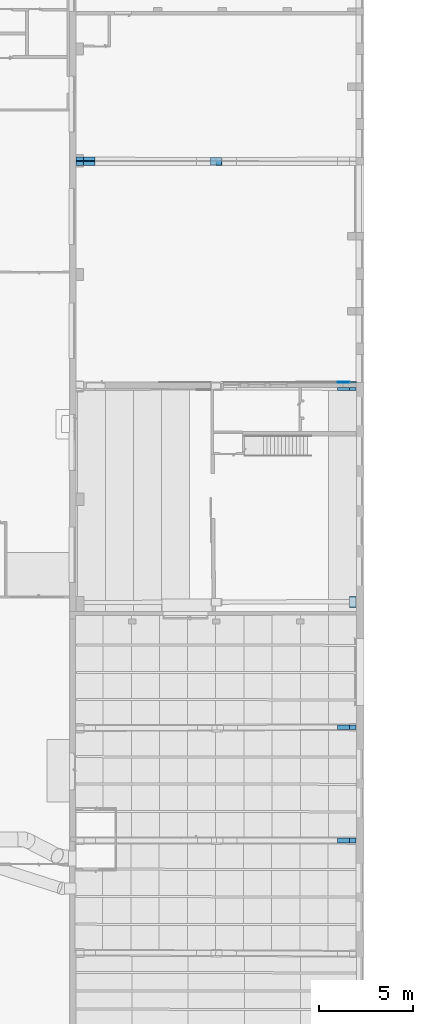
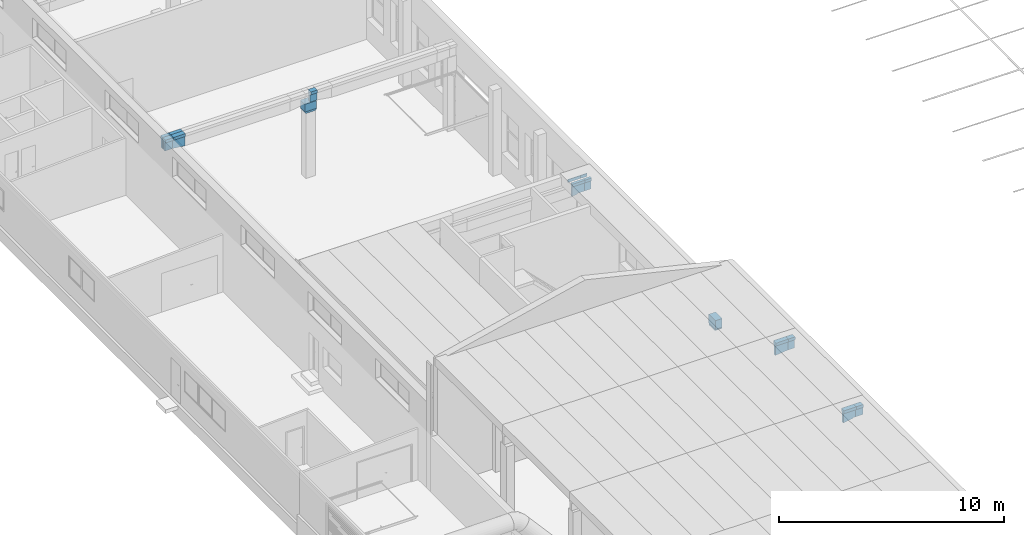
# One storey, part 223 of 301: 17 building element parts, 9 elements without a shape of their own.
"""IFC2X3 building model written with IfcOpenShell, lengths in millimetres."""

import ifcopenshell
import ifcopenshell.guid

model = None  # the IFC model being written
_history = None  # IfcOwnerHistory: only IFC2X3 demands one
_inside = {}  # id of a spatial element -> (the spatial element, [elements in it])
_under = {}  # id of a project, library or spatial element -> (it, [spatial elements below it])
_declared = {}  # id of a project -> (the project, [libraries it declares])
_typed = {}  # id of a type object -> (the type object, [elements of that type])
_made_of = {}  # id of a material, layer set ... -> (it, [elements and type objects made of it])


def new_model(schema):
    """Start an empty IFC model of exactly this schema.

    Asked for "IFC4X3", IfcOpenShell would pick the latest addendum, in which some entities
    have other attributes; the version numbers below select the first issue.
    IFC2X3 requires an IfcOwnerHistory on every rooted entity: one is made here for all.
    """
    global model, _history
    if schema == "IFC4X3":
        model = ifcopenshell.file(schema_version=(4, 3, 0, 0))
    else:
        model = ifcopenshell.file(schema=schema)
    _inside.clear()
    _under.clear()
    _declared.clear()
    _typed.clear()
    _made_of.clear()
    _history = None
    if model.schema == "IFC2X3":
        org = make("IfcOrganization", Name="unknown")
        user = make(
            "IfcPersonAndOrganization",
            ThePerson=make("IfcPerson", FamilyName="unknown"),
            TheOrganization=org,
        )
        app = make(
            "IfcApplication",
            ApplicationDeveloper=org,
            Version="unknown",
            ApplicationFullName="unknown",
            ApplicationIdentifier="unknown",
        )
        _history = make(
            "IfcOwnerHistory",
            OwningUser=user,
            OwningApplication=app,
            ChangeAction="ADDED",
            CreationDate=0,
        )
    return model


def make(cls, **values):
    """One entity of the class cls with the attributes given. An attribute that is None is left unset."""
    return model.create_entity(
        cls, **{name: value for name, value in values.items() if value is not None}
    )


def entity(cls, *values):
    """Any entity or typed value of the class cls, its attributes in the order of the schema. None: left unset."""
    e = model.create_entity(cls)
    for i, value in enumerate(values):
        if value is not None:
            e[i] = value
    return e


def rooted(cls, **values):
    """An entity with a GlobalId (a new one), such as an element, a storey or a relation."""
    return make(cls, GlobalId=ifcopenshell.guid.new(), OwnerHistory=_history, **values)


def si_unit(unit_type, name, prefix=None):
    """IfcSIUnit, for example si_unit("LENGTHUNIT", "METRE", prefix="MILLI")."""
    return make("IfcSIUnit", UnitType=unit_type, Prefix=prefix, Name=name)


def converted_unit(unit_type, name, factor, base, dimensions=None, offset=None):
    """IfcConversionBasedUnit, such as the inch: factor (a typed value) times the base unit."""
    return make(
        "IfcConversionBasedUnit"
        if offset is None
        else "IfcConversionBasedUnitWithOffset",
        ConversionOffset=offset,
        Dimensions=None
        if dimensions is None
        else entity("IfcDimensionalExponents", *dimensions),
        UnitType=unit_type,
        Name=name,
        ConversionFactor=make(
            "IfcMeasureWithUnit", ValueComponent=factor, UnitComponent=base
        ),
    )


def derived_unit(unit_type, elements):
    """IfcDerivedUnit: a product of units, each with its exponent."""
    return make(
        "IfcDerivedUnit",
        Elements=[
            make("IfcDerivedUnitElement", Unit=unit, Exponent=power)
            for unit, power in elements
        ],
        UnitType=unit_type,
    )


def money_unit(currency):
    """IfcMonetaryUnit."""
    return make("IfcMonetaryUnit", Currency=currency)


def assignment(units):
    """IfcUnitAssignment: the units of a project."""
    return None if units is None else make("IfcUnitAssignment", Units=units)


def point(xyz):
    """IfcCartesianPoint."""
    return None if xyz is None else make("IfcCartesianPoint", Coordinates=xyz)


def direction(xyz):
    """IfcDirection."""
    return None if xyz is None else make("IfcDirection", DirectionRatios=xyz)


def frame(location, z_axis=None, x_axis=None):
    """IfcAxis2Placement3D, a coordinate frame: its origin and axes. An axis left out is left unset."""
    return make(
        "IfcAxis2Placement3D",
        Location=point(location),
        Axis=direction(z_axis),
        RefDirection=direction(x_axis),
    )


def origin_with_axes():
    """The frame at (0, 0, 0) with the z axis (0, 0, 1) and the x axis (1, 0, 0) written out."""
    return frame((0.0, 0.0, 0.0), z_axis=(0.0, 0.0, 1.0), x_axis=(1.0, 0.0, 0.0))


def place(relative_to, where):
    """IfcLocalPlacement: puts the frame where relative to a parent placement (None: the world)."""
    return make(
        "IfcLocalPlacement", PlacementRelTo=relative_to, RelativePlacement=where
    )


def context(
    kind, dimensions, precision=None, world=None, true_north=None, identifier=None
):
    """IfcGeometricRepresentationContext, for example the 3D "Model" context."""
    return make(
        "IfcGeometricRepresentationContext",
        ContextIdentifier=identifier,
        ContextType=kind,
        CoordinateSpaceDimension=dimensions,
        Precision=precision,
        WorldCoordinateSystem=world,
        TrueNorth=true_north,
    )


def subcontext(parent, identifier, kind, view, scale=None):
    """IfcGeometricRepresentationSubContext, for example "Body" below "Model"."""
    return make(
        "IfcGeometricRepresentationSubContext",
        ContextIdentifier=identifier,
        ContextType=kind,
        ParentContext=parent,
        TargetScale=scale,
        TargetView=view,
    )


def project(units=None, contexts=None):
    """IfcProject with its units and contexts."""
    return rooted(
        "IfcProject",
        Name="project",
        RepresentationContexts=contexts,
        UnitsInContext=assignment(units),
    )


def spatial(cls, under=None, at=None, **own):
    """A site, building, storey or space (cls), placed at a placement, below another one or the project."""
    s = rooted(cls, ObjectPlacement=at, **own)
    if under is not None:
        _under.setdefault(under.id(), (under, []))[1].append(s)
    return s


def faces_of(points, faces, orient=None, outer=None):
    """IfcFace entities. A face is a list of loops; a loop is a list of indices into points, from 0.

    orient and outer hold one flag for each loop. By default every Orientation is true, the
    first loop of a face is its IfcFaceOuterBound and the others are IfcFaceBound.
    """
    made = []
    for i, loops in enumerate(faces):
        bounds = []
        for j, loop in enumerate(loops):
            is_outer = j == 0 if outer is None else outer[i][j]
            bounds.append(
                make(
                    "IfcFaceOuterBound" if is_outer else "IfcFaceBound",
                    Bound=make("IfcPolyLoop", Polygon=[points[k] for k in loop]),
                    Orientation=True if orient is None else orient[i][j],
                )
            )
        made.append(make("IfcFace", Bounds=bounds))
    return made


def faceted_brep(points, faces, orient=None, outer=None, voids=None):
    """IfcFacetedBrep: a solid bounded by flat faces; with voids (closed shells), ...WithVoids."""
    shared = [point(p) for p in points]
    hull = make("IfcClosedShell", CfsFaces=faces_of(shared, faces, orient, outer))
    if voids is None:
        return make("IfcFacetedBrep", Outer=hull)
    return make(
        "IfcFacetedBrepWithVoids",
        Outer=hull,
        Voids=[
            make(cls, CfsFaces=faces_of(shared, fs, o, b)) for cls, fs, o, b in voids
        ],
    )


def shape(context_of_items, identifier, shape_type, items):
    """IfcShapeRepresentation: the items that make up one representation, for example the "Body"."""
    return make(
        "IfcShapeRepresentation",
        ContextOfItems=context_of_items,
        RepresentationIdentifier=identifier,
        RepresentationType=shape_type,
        Items=items,
    )


def material(Name=None, Category=None):
    """IfcMaterial."""
    return make("IfcMaterial", Name=Name, Category=Category)


def made_of(thing, what):
    """Note that an element or type object is made of a material, layer set ...; save() writes the relation."""
    if what is not None:
        _made_of.setdefault(what.id(), (what, []))[1].append(thing)
    return thing


def type_object(cls, material=None, **own):
    """A type object (cls), such as IfcWallType, which elements share."""
    return made_of(rooted(cls, **own), material)


def element(
    cls,
    number,
    at=None,
    inside=None,
    cuts=None,
    type_object=None,
    material=None,
    context=None,
    identifier="Body",
    shape_type=None,
    held_by="IfcProductDefinitionShape",
    body=None,
    shapes=None,
    **own,
):
    """One element of the class cls, such as IfcWall. Its Tag is "e" and its number.

    at: its placement. inside: the storey or other place that contains it. cuts: it is an
    opening in that element (IfcRelVoidsElement). A single representation is given by context,
    identifier, shape_type and body (its items); several are given by shapes. held_by: the class
    of the entity that holds the representations. save() writes the other relations.
    """
    e = rooted(cls, Tag="e%d" % number, ObjectPlacement=at, **own)
    if body is not None:
        shapes = [shape(context, identifier, shape_type, body)]
    if shapes is not None:
        e.Representation = make(held_by, Representations=shapes)
    if inside is not None:
        _inside.setdefault(inside.id(), (inside, []))[1].append(e)
    if cuts is not None:
        rooted(
            "IfcRelVoidsElement", RelatingBuildingElement=cuts, RelatedOpeningElement=e
        )
    if type_object is not None:
        _typed.setdefault(type_object.id(), (type_object, []))[1].append(e)
    return made_of(e, material)


def aggregate(whole, parts):
    """IfcRelAggregates: a whole, such as a stair, and the parts it consists of."""
    return rooted("IfcRelAggregates", RelatingObject=whole, RelatedObjects=parts)


def save(model, path):
    """Write the relations noted so far, then the file.

    IfcRelAggregates (storeys below a building ...), IfcRelContainedInSpatialStructure (elements
    in a storey), IfcRelDefinesByType, IfcRelAssociatesMaterial and IfcRelDeclares: one each for
    every whole, place, type object, material and project.
    """
    for whole, parts in _under.values():
        aggregate(whole, parts)
    for where, things in _inside.values():
        rooted(
            "IfcRelContainedInSpatialStructure",
            RelatedElements=things,
            RelatingStructure=where,
        )
    for kind, things in _typed.values():
        rooted("IfcRelDefinesByType", RelatedObjects=things, RelatingType=kind)
    for what, things in _made_of.values():
        rooted("IfcRelAssociatesMaterial", RelatedObjects=things, RelatingMaterial=what)
    for by, libraries in _declared.values():
        rooted("IfcRelDeclares", RelatingContext=by, RelatedDefinitions=libraries)
    model.write(path)


model = new_model("IFC2X3")

# Units and contexts
model_context = context("Model", 3, precision=0.01, world=origin_with_axes(), true_north=direction((0.0, 1.0)))
body_context = subcontext(model_context, "Body", "Model", "MODEL_VIEW")
ifc_project = project(units=[si_unit("LENGTHUNIT", "METRE", prefix="MILLI"), si_unit("AREAUNIT", "SQUARE_METRE"), si_unit("VOLUMEUNIT", "CUBIC_METRE"), converted_unit("PLANEANGLEUNIT", "DEGREE", entity("IfcPlaneAngleMeasure", 0.0174532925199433), si_unit("PLANEANGLEUNIT", "RADIAN"), dimensions=[0, 0, 0, 0, 0, 0, 0]), money_unit("EUR"), converted_unit("TIMEUNIT", "Year", entity("IfcTimeMeasure", 31557600.0), si_unit("TIMEUNIT", "SECOND"), dimensions=[0, 0, 1, 0, 0, 0, 0]), si_unit("MASSUNIT", "GRAM", prefix="KILO"), si_unit("THERMODYNAMICTEMPERATUREUNIT", "DEGREE_CELSIUS"), si_unit("LUMINOUSINTENSITYUNIT", "LUMEN"), si_unit("ENERGYUNIT", "JOULE", prefix="MEGA"), derived_unit("THERMALCONDUCTANCEUNIT", [(si_unit("POWERUNIT", "WATT"), 1), (si_unit("LENGTHUNIT", "METRE"), -1), (si_unit("THERMODYNAMICTEMPERATUREUNIT", "KELVIN"), -1)]), derived_unit("SPECIFICHEATCAPACITYUNIT", [(si_unit("ENERGYUNIT", "JOULE"), 1), (si_unit("MASSUNIT", "GRAM", prefix="KILO"), -1), (si_unit("THERMODYNAMICTEMPERATUREUNIT", "KELVIN"), -1)]), derived_unit("MASSDENSITYUNIT", [(si_unit("MASSUNIT", "GRAM", prefix="KILO"), 1), (si_unit("VOLUMEUNIT", "CUBIC_METRE"), -1)])], contexts=[model_context])

# Site, building, storey
site_placement = place(None, frame((0.0, 0.0, 8650.0), z_axis=(0.0, 0.0, 1.0), x_axis=(1.0, 0.0, 0.0)))
site = spatial("IfcSite", under=ifc_project, at=site_placement, Name="43301:001:0844", CompositionType="ELEMENT")
building_placement = place(site_placement, origin_with_axes())
building = spatial("IfcBuilding", under=site, at=building_placement, Name="Kuressaare Ametikooli tuulikute mehaanikute õppekorpus", CompositionType="ELEMENT")
storey_placement = place(building_placement, origin_with_axes())
storey = spatial("IfcBuildingStorey", under=building, at=storey_placement, Name="1.korrus", CompositionType="ELEMENT", Elevation=0.0)

# Beam, building element parts
beam_type_1 = type_object("IfcBeamType", Name="Various Structures - 5 Segments - 250 x 700 x 7456 (338+766+5361+631+361)", PredefinedType="NOTDEFINED")
beam_1_placement = place(storey_placement, frame((95771.85418875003, 50085.18157357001, 6660.0), z_axis=(0.0, 0.0, 1.0), x_axis=(2.364312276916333e-05, -0.9999999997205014, 0.0)))
beam_1 = element("IfcBeam", 1, at=beam_1_placement, inside=storey, type_object=beam_type_1)
ifc_material_1 = material(Name="Raudbetoon")
building_element_part_1_placement = place(beam_1_placement, origin_with_axes())
building_element_part_1 = element("IfcBuildingElementPart", 2, at=building_element_part_1_placement, material=ifc_material_1, Name="Raudbetoon", context=body_context, shape_type="Brep", body=[
    faceted_brep([(64.99999999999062, 7095.02210640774, -164.4012678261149), (64.99999999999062, 7095.02210640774, -580.0000000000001), (-65.00000000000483, 7095.022106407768, -580.0000000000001), (-65.00000000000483, 7095.022106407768, -164.4012678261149), (-125.0052826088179, 7095.022106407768, -150.0000000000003), (-125.0054185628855, 7095.022106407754, -75.00000000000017), (-125.0055545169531, 7095.022106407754, 0.0), (-109.6732934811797, 7095.022106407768, 0.0), (-109.6732783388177, 7095.022106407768, -5.000209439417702), (109.4852506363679, 7095.02210640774, -5.000209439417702), (109.4852657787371, 7095.022106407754, 0.0), (125.0055545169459, 7095.022106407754, 0.0), (125.0054185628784, 7095.022106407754, -75.00000000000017), (125.0052826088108, 7095.022106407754, -150.0000000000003), (64.99999999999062, 6955.656475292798, -606.5169512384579), (64.99999999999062, 6955.656475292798, -580.0000000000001), (64.99999999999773, 6464.335883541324, -164.4011476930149), (64.99999999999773, 6464.335883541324, -700.0000000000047), (50.16445346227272, 6955.656826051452, -580.0000000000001), (-64.99999999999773, 6955.659611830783, -580.0000000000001), (-64.99999999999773, 6955.659611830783, -606.5163034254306), (-65.00000000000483, 6464.335883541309, -700.0000000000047), (-65.00000000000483, 6464.335883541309, -164.4011476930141), (-125.0047820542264, 6464.335883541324, -150.0000000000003), (-125.0049071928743, 6622.007439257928, -150.0000000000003), (-125.00515747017, 6937.35055069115, -150.0000000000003), (-125.0054379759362, 6937.35055069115, 0.0), (-125.0052048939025, 6622.007439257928, 0.0), (-125.0050883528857, 6464.335883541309, 0.0), (-109.8642867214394, 6464.335883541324, 0.0), (-109.8642715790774, 6464.335883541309, -5.000209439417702), (109.2942573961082, 6464.335883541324, -5.000209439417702), (109.2942725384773, 6464.335883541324, 0.0), (125.0050883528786, 6464.335883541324, 0.0), (125.0052048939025, 6622.007439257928, 0.0), (125.0054379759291, 6937.35055069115, 0.0), (125.0051574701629, 6937.35055069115, -150.0000000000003), (125.0049071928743, 6622.007439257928, -150.0000000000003), (125.0047820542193, 6464.335883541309, -150.0000000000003), (50.16445346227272, 6955.656826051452, -606.5163034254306), (125.0049352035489, 6464.335883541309, -75.00000000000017), (-125.004935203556, 6464.335883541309, -75.00000000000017), (-125.0051768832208, 6779.678994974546, -75.00000000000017), (125.0051768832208, 6779.678994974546, -75.00000000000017)], [[[0, 1, 2, 3, 4, 5, 6, 7, 8, 9, 10, 11, 12, 13]], [[14, 15, 1, 0, 16, 17]], [[2, 1, 15, 18, 19]], [[3, 2, 19, 20, 21, 22]], [[22, 23, 24, 25, 4, 3]], [[25, 5, 4]], [[26, 6, 5]], [[7, 6, 26, 27, 28, 29]], [[30, 8, 7, 29]], [[31, 9, 8, 30]], [[31, 32, 10, 9]], [[32, 33, 34, 35, 11, 10]], [[35, 12, 11]], [[36, 13, 12]], [[36, 37, 38, 16, 0, 13]], [[19, 18, 15, 14, 39, 20]], [[38, 40, 33, 32, 31, 30, 29, 28, 41, 23, 22, 21, 17, 16]], [[20, 39, 14, 17, 21]], [[23, 41, 24]], [[24, 42, 25]], [[5, 25, 42, 26]], [[27, 26, 42]], [[28, 27, 41]], [[33, 40, 34]], [[34, 43, 35]], [[12, 35, 43, 36]], [[37, 36, 43]], [[38, 37, 40]], [[42, 24, 41, 27]], [[43, 34, 40, 37]]]),
])
building_element_part_2_placement = place(beam_1_placement, origin_with_axes())
building_element_part_2 = element("IfcBuildingElementPart", 3, at=building_element_part_2_placement, material=ifc_material_1, Name="Raudbetoon", context=body_context, shape_type="Brep", body=[
    faceted_brep([(-109.6732934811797, 7095.022106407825, 0.0), (-109.5640798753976, 7455.660610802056, 0.0), (-125.0055545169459, 7455.660975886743, 0.0), (-125.0055545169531, 7095.02210640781, 0.0), (-109.6732783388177, 7095.022106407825, -5.000209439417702), (-109.5640647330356, 7455.6606108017, -5.000209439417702), (-65.00000000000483, 7455.659557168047, -164.4012678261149), (-125.0052826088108, 7455.660975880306, -150.0000000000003), (109.5944626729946, 7455.655429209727, -5.000209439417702), (109.5944778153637, 7455.655429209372, 0.0), (125.0055545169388, 7455.655064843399, 0.0), (125.0052826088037, 7455.655064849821, -150.0000000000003), (65.00000000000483, 7455.65648356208, -164.4012678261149), (65.00000000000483, 7455.65648356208, -580.0000000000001), (-65.00000000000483, 7455.659557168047, -580.0000000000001), (-125.0052826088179, 7095.02210640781, -150.0000000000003), (109.4852657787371, 7095.022106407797, 0.0), (109.4852506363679, 7095.022106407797, -5.000209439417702), (-64.99999999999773, 7095.02210640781, -164.4012678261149), (-64.99999999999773, 7095.02210640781, -580.0000000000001), (64.99999999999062, 7095.022106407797, -580.0000000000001), (64.99999999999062, 7095.022106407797, -164.4012678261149), (125.0052826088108, 7095.022106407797, -150.0000000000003), (125.0055545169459, 7095.022106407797, 0.0)], [[[0, 1, 2, 3]], [[4, 5, 1, 0]], [[6, 7, 2, 1, 5, 8, 9, 10, 11, 12, 13, 14]], [[3, 2, 7, 15]], [[16, 17, 4, 0, 3, 15, 18, 19, 20, 21, 22, 23]], [[17, 8, 5, 4]], [[15, 7, 6, 18]], [[16, 9, 8, 17]], [[23, 10, 9, 16]], [[22, 11, 10, 23]], [[21, 12, 11, 22]], [[20, 13, 12, 21]], [[19, 14, 13, 20]], [[18, 6, 14, 19]]]),
])
aggregate(beam_1, [building_element_part_1, building_element_part_2])

beam_type_2 = type_object("IfcBeamType", Name="Various Structures - 5 Segments - 250 x 700 x 7435 (338+766+5341+640+350)", PredefinedType="NOTDEFINED")
beam_2_placement = place(storey_placement, frame((95793.5361313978, 56107.49431488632, 6659.999999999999), z_axis=(0.0, 0.0, 1.0), x_axis=(0.005495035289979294, -0.9999849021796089, 0.0)))
beam_2 = element("IfcBeam", 4, at=beam_2_placement, inside=storey, type_object=beam_type_2)
building_element_part_3_placement = place(beam_2_placement, origin_with_axes())
building_element_part_3 = element("IfcBuildingElementPart", 5, at=building_element_part_3_placement, material=ifc_material_1, Name="Raudbetoon", context=body_context, shape_type="Brep", body=[
    faceted_brep([(64.99999999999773, 6445.149922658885, -700.0000000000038), (64.99999999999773, 7083.725847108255, -630.1142666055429), (64.99999999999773, 7083.725847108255, -629.999999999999), (64.99999999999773, 7084.769950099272, -629.999999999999), (64.99999999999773, 7084.769950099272, -164.4012678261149), (64.99999999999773, 6445.149922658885, -164.4011476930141), (-64.99999999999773, 6445.149922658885, -700.0000000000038), (-65.00000000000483, 7084.440212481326, -630.0360864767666), (-65.00000000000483, 7084.440212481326, -629.999999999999), (-65.00000000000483, 7084.769950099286, -629.999999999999), (-65.00000000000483, 7084.769950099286, -164.4012678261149), (-125.0052826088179, 7084.769950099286, -150.0000000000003), (-125.0054185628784, 7084.7699500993, -75.00000000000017), (-125.0055545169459, 7084.769950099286, 0.0), (-110.2420167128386, 7084.769950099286, 0.0), (-110.2420015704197, 7084.769950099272, -5.000214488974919), (108.9169106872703, 7084.769950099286, -5.000214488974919), (108.916925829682, 7084.769950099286, 0.0), (125.0055545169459, 7084.7699500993, 0.0), (125.0054185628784, 7084.769950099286, -75.00000000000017), (125.0052826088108, 7084.769950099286, -150.0000000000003), (125.00515747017, 6924.864943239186, -150.0000000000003), (125.0049071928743, 6605.054929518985, -150.0000000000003), (125.0047820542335, 6445.149922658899, -150.0000000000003), (107.7051071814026, 6445.149922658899, 0.0), (107.7050920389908, 6445.149922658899, -5.000214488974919), (-111.4538202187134, 6445.149922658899, -5.000214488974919), (-111.4538353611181, 6445.149922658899, 0.0), (-125.0050883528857, 6445.149922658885, 0.0), (-125.0049352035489, 6445.149922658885, -75.00000000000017), (-125.0047820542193, 6445.149922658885, -150.0000000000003), (-64.99999999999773, 6445.149922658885, -164.4011476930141), (125.004935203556, 6445.149922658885, -75.00000000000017), (125.0050883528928, 6445.149922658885, 0.0), (-125.0051574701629, 6924.864943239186, -150.0000000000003), (-125.0049071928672, 6605.054929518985, -150.0000000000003), (-125.0054379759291, 6924.8649432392, 0.0), (-125.0052048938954, 6605.054929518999, 0.0), (125.0054379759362, 6924.864943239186, 0.0), (125.0052048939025, 6605.054929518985, 0.0), (125.0051768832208, 6764.959936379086, -75.00000000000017), (-125.0051768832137, 6764.959936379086, -75.00000000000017)], [[[0, 1, 2, 3, 4, 5]], [[6, 7, 1, 0]], [[1, 7, 8, 2]], [[8, 9, 3, 2]], [[4, 3, 9, 10, 11, 12, 13, 14, 15, 16, 17, 18, 19, 20]], [[5, 4, 20, 21, 22, 23]], [[24, 25, 26, 27, 28, 29, 30, 31, 6, 0, 5, 23, 32, 33]], [[9, 8, 7, 6, 31, 10]], [[34, 11, 10, 31, 30, 35]], [[34, 12, 11]], [[36, 13, 12]], [[37, 28, 27, 14, 13, 36]], [[27, 26, 15, 14]], [[26, 25, 16, 15]], [[16, 25, 24, 17]], [[38, 18, 17, 24, 33, 39]], [[38, 19, 18]], [[21, 20, 19]], [[22, 21, 40]], [[23, 22, 32]], [[28, 37, 29]], [[30, 29, 35]], [[33, 32, 39]], [[35, 41, 34]], [[36, 12, 34, 41]], [[37, 36, 41]], [[39, 40, 38]], [[21, 19, 38, 40]], [[22, 40, 39, 32]], [[37, 41, 35, 29]]]),
])
building_element_part_4_placement = place(beam_2_placement, origin_with_axes())
building_element_part_4 = element("IfcBuildingElementPart", 6, at=building_element_part_4_placement, material=ifc_material_1, Name="Raudbetoon", context=body_context, shape_type="Brep", body=[
    faceted_brep([(-110.2420167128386, 7084.7699500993, 0.0), (-109.5790267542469, 7434.690463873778, 0.0), (-125.0055545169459, 7434.775234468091, 0.0), (-125.0055545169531, 7084.7699500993, 0.0), (-110.2420015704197, 7084.7699500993, -5.000214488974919), (-109.5790116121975, 7434.690463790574, -5.000214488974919), (-65.00000000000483, 7434.445496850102, -164.4012678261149), (-125.0052826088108, 7434.77523297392, -150.0000000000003), (109.5775854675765, 7433.486172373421, -5.000214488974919), (109.5776006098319, 7433.486172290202, 0.0), (125.0055545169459, 7433.401393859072, 0.0), (125.0052826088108, 7433.401395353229, -150.0000000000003), (65.00000000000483, 7433.731131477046, -164.4012678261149), (65.00000000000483, 7433.731131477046, -629.999999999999), (-65.00000000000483, 7434.445496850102, -629.999999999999), (-125.0052826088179, 7084.769950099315, -150.0000000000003), (108.916925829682, 7084.769950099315, 0.0), (108.9169106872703, 7084.769950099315, -5.000214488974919), (-65.00000000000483, 7084.7699500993, -164.4012678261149), (-65.00000000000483, 7084.7699500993, -629.999999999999), (64.99999999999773, 7084.7699500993, -629.999999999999), (64.99999999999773, 7084.7699500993, -164.4012678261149), (125.0052826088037, 7084.7699500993, -150.0000000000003), (125.0055545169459, 7084.769950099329, 0.0)], [[[0, 1, 2, 3]], [[4, 5, 1, 0]], [[6, 7, 2, 1, 5, 8, 9, 10, 11, 12, 13, 14]], [[3, 2, 7, 15]], [[16, 17, 4, 0, 3, 15, 18, 19, 20, 21, 22, 23]], [[17, 8, 5, 4]], [[15, 7, 6, 18]], [[16, 9, 8, 17]], [[23, 10, 9, 16]], [[22, 11, 10, 23]], [[21, 12, 11, 22]], [[20, 13, 12, 21]], [[19, 14, 13, 20]], [[18, 6, 14, 19]]]),
])
aggregate(beam_2, [building_element_part_3, building_element_part_4])

# Column, building element parts
column_type_1 = type_object("IfcColumnType", Name="Various Structures - 3 Segments - 600 x 400 x 4050 (3533+102+415)", PredefinedType="NOTDEFINED")
column_1_placement = place(storey_placement, frame((95731.50422307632, 86396.78349422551, -330.0), z_axis=(0.0, 0.0, 1.0), x_axis=(1.0, 0.0, 0.0)))
column_1 = element("IfcColumn", 7, at=column_1_placement, inside=storey, type_object=column_type_1)
ifc_material_2 = material(Name="GENEERILINE - KONSTRUKTRIOON")
building_element_part_5_placement = place(column_1_placement, origin_with_axes())
building_element_part_5 = element("IfcBuildingElementPart", 8, at=building_element_part_5_placement, material=ifc_material_2, Name="GENEERILINE - KONSTRUKTRIOON", context=body_context, shape_type="Brep", body=[
    faceted_brep([(299.9999999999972, -200.0000000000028, 3635.0), (-299.9999999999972, -200.0000000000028, 3635.0), (-250.0, -200.0000000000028, 3532.979557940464), (250.0, -200.0000000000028, 3532.979557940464), (299.9999999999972, 200.0000000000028, 3635.0), (-299.9999999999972, 200.0000000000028, 3635.0), (-250.0, 200.0000000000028, 3532.979557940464), (250.0, 200.0000000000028, 3532.979557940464)], [[[0, 1, 2, 3]], [[4, 5, 1, 0]], [[1, 5, 6, 2]], [[7, 3, 2, 6]], [[4, 0, 3, 7]], [[5, 4, 7, 6]]]),
])
building_element_part_6_placement = place(column_1_placement, origin_with_axes())
building_element_part_6 = element("IfcBuildingElementPart", 9, at=building_element_part_6_placement, material=ifc_material_2, Name="GENEERILINE - KONSTRUKTRIOON", context=body_context, shape_type="Brep", body=[
    faceted_brep([(-299.9999999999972, -200.0000000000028, 4050.0), (-299.9999999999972, -200.0000000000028, 3635.0), (299.9999999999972, -200.0000000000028, 3635.0), (299.9999999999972, -200.0000000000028, 4050.0), (-299.9999999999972, 200.0000000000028, 4050.0), (-299.9999999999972, 200.0000000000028, 3635.0), (299.9999999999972, 200.0000000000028, 3635.0), (299.9999999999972, 200.0000000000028, 4050.0)], [[[0, 1, 2, 3]], [[4, 5, 1, 0]], [[2, 1, 5, 6]], [[3, 2, 6, 7]], [[4, 0, 3, 7]], [[7, 6, 5, 4]]]),
])
aggregate(column_1, [building_element_part_5, building_element_part_6])

# Beam, building element parts
beam_type_3 = type_object("IfcBeamType", Name="Various Structures - 5 Segments - 250 x 700 x 7473 (262+767+5416+621+407)", PredefinedType="NOTDEFINED")
beam_3_placement = place(storey_placement, frame((95731.40168846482, 86476.84788949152, 4300.0), z_axis=(0.0, 0.0, 1.0), x_axis=(0.001819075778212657, 0.9999983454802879, 0.0)))
beam_3 = element("IfcBeam", 10, at=beam_3_placement, inside=storey, type_object=beam_type_3)
building_element_part_7_placement = place(beam_3_placement, origin_with_axes())
building_element_part_7 = element("IfcBuildingElementPart", 11, at=building_element_part_7_placement, material=ifc_material_1, Name="Raudbetoon", context=body_context, shape_type="Brep", body=[
    faceted_brep([(-63.39546503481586, 6600.625268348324, 0.0), (-63.11252852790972, 6445.27911998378, 0.0), (-63.11170246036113, 6444.825006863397, 0.0), (125.0050883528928, 6444.825006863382, 0.0), (125.0052048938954, 6600.171412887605, 0.0), (125.0054379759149, 6910.864224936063, 0.0), (125.0055545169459, 7066.210630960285, 0.0), (-64.24205220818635, 7066.210630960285, 0.0), (-63.96040572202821, 6911.317566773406, 0.0), (-63.1126644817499, 6445.279119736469, -75.00000000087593), (-63.11280043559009, 6445.279119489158, -150.0000000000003), (-63.111974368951, 6444.825006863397, -150.0000000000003), (-94.05840381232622, 6444.825006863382, -157.4271307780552), (-65.00000000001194, 6444.825006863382, -164.4011476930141), (-65.00000000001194, 6444.825006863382, -700.000000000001), (64.99999999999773, 6444.825006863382, -700.000000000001), (64.99999999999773, 6444.825006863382, -164.4011476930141), (125.0047820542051, 6444.825006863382, -150.0000000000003), (125.0049352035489, 6444.825006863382, -75.00000000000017), (125.0051768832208, 6755.517818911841, -75.00000000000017), (125.0054185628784, 7066.210630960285, -75.00000000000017), (-64.24232414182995, 7066.210630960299, -150.0000000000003), (-64.24218858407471, 7066.210630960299, -75.21874606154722), (-64.2421877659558, 7066.210630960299, -74.7812539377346), (125.0052826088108, 7066.210630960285, -150.0000000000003), (64.99999999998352, 7066.210630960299, -164.4012678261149), (64.99999999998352, 7066.210630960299, -629.9999999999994), (-64.99999999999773, 7066.210630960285, -629.9999999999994), (-64.99999999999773, 7066.210630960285, -164.4012678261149), (-94.623828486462, 7066.210630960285, -157.291548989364), (-63.67807992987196, 6755.9714172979, -75.00000000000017), (-63.39576273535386, 6600.625267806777, -150.0000000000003), (-63.96068622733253, 6911.317566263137, -150.0000000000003), (125.0051574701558, 6910.864224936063, -150.0000000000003), (125.0049071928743, 6600.171412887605, -150.0000000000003)], [[[0, 1, 2, 3, 4, 5, 6, 7, 8]], [[0, 9, 1]], [[10, 11, 2, 1, 9]], [[2, 11, 12, 13, 14, 15, 16, 17, 18, 3]], [[3, 18, 4]], [[4, 19, 5]], [[5, 20, 6]], [[21, 22, 23, 7, 6, 20, 24, 25, 26, 27, 28, 29]], [[7, 23, 8]], [[8, 30, 0]], [[30, 31, 9, 0]], [[29, 12, 11, 10, 31, 32, 21]], [[31, 10, 9]], [[13, 12, 29, 28]], [[13, 28, 27, 14]], [[15, 14, 27, 26]], [[15, 26, 25, 16]], [[16, 25, 24, 33, 34, 17]], [[17, 34, 18]], [[34, 19, 4, 18]], [[33, 20, 5, 19]], [[21, 32, 22]], [[30, 8, 23, 22, 32]], [[33, 24, 20]], [[30, 32, 31]], [[34, 33, 19]]]),
])
building_element_part_8_placement = place(beam_3_placement, origin_with_axes())
building_element_part_8 = element("IfcBuildingElementPart", 12, at=building_element_part_8_placement, material=ifc_material_1, Name="Raudbetoon", context=body_context, shape_type="Brep", body=[
    faceted_brep([(125.0052826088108, 7066.210630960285, -150.0000000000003), (125.0052826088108, 7472.884999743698, -150.0000000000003), (125.0055545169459, 7472.885000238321, 0.0), (125.0055545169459, 7066.210630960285, 0.0), (64.99999999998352, 7066.210630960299, -164.4012678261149), (64.99999999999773, 7472.775845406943, -164.4012678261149), (-64.98146781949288, 7472.539398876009, -150.0000000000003), (-64.9811959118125, 7472.539399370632, 0.0), (64.99999999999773, 7472.775845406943, -629.999999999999), (-65.00000000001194, 7472.539365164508, -629.999999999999), (-65.00000000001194, 7472.539365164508, -164.4012678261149), (-94.99335039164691, 7472.484804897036, -157.2028637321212), (-64.24287606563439, 7066.663715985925, 0.0), (-64.24205220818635, 7066.210630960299, 0.0), (-64.2421877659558, 7066.210630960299, -74.7812539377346), (-64.24218858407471, 7066.210630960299, -75.21874606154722), (-64.24232414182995, 7066.210630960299, -150.0000000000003), (-94.623828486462, 7066.210630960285, -157.291548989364), (-64.99999999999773, 7066.210630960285, -164.4012678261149), (-64.99999999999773, 7066.210630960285, -629.999999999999), (64.99999999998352, 7066.210630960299, -629.999999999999), (-64.24314797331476, 7066.663715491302, -150.0000000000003), (-64.24301201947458, 7066.663715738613, -75.00000000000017)], [[[0, 1, 2, 3]], [[4, 5, 1, 0]], [[6, 7, 2, 1, 5, 8, 9, 10, 11]], [[3, 2, 7, 12, 13]], [[14, 15, 16, 17, 18, 19, 20, 4, 0, 3, 13]], [[20, 8, 5, 4]], [[12, 7, 6, 21, 22]], [[19, 9, 8, 20]], [[18, 10, 9, 19]], [[17, 11, 10, 18]], [[21, 6, 11, 17, 16]], [[12, 22, 14, 13]], [[14, 22, 15]], [[22, 21, 16, 15]]]),
])
aggregate(beam_3, [building_element_part_7, building_element_part_8])

# Beam, building element part
beam_type_4 = type_object("IfcBeamType", Name="Various Structures - 5 Segments - 250 x 700 x 7497 (338+766+5404+640+350)", PredefinedType="NOTDEFINED")
beam_4_placement = place(storey_placement, frame((95730.8310469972, 86300.45436199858, 4300.0), z_axis=(0.0, 0.0, 1.0), x_axis=(-0.001219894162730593, -0.9999992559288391, 0.0)))
beam_4 = element("IfcBeam", 13, at=beam_4_placement, inside=storey, type_object=beam_type_4)
building_element_part_9_placement = place(beam_4_placement, origin_with_axes())
building_element_part_9 = element("IfcBuildingElementPart", 14, at=building_element_part_9_placement, material=ifc_material_1, Name="Raudbetoon", context=body_context, shape_type="Brep", body=[
    faceted_brep([(65.00000000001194, 0.0, -579.8231697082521), (64.99999999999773, 337.7568168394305, -579.8231697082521), (64.99999999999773, 337.7568168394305, -164.4012678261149), (65.00000000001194, 0.0, -164.4012678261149), (-64.99999999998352, 0.0, -579.8231697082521), (-64.99999999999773, 337.7568168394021, -579.8231697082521), (-64.99999999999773, 337.7568168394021, -164.4012678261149), (-125.0052826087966, 337.7568168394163, -150.0000000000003), (-125.0055545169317, 337.7568168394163, 0.0), (125.0055545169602, 337.7568168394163, 0.0), (125.005282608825, 337.7568168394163, -150.0000000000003), (125.0052826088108, 0.0, -150.0000000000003), (125.0055545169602, 0.0, 0.0), (-125.0055545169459, 0.0, 0.0), (-125.0052826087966, 0.0, -150.0000000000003), (-64.99999999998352, 0.0, -164.4012678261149)], [[[0, 1, 2, 3]], [[4, 5, 1, 0]], [[2, 1, 5, 6, 7, 8, 9, 10]], [[3, 2, 10, 11]], [[4, 0, 3, 11, 12, 13, 14, 15]], [[15, 6, 5, 4]], [[14, 7, 6, 15]], [[13, 8, 7, 14]], [[12, 9, 8, 13]], [[11, 10, 9, 12]]]),
])
aggregate(beam_4, [building_element_part_9])

# Beam, building element parts
beam_type_5 = type_object("IfcBeamType", Name="Various Structures - 5 Segments - 250 x 700 x 7472 (262+767+5416+621+406)", PredefinedType="NOTDEFINED")
beam_5_placement = place(storey_placement, frame((95730.8310469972, 86300.45436199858, 4300.0), z_axis=(0.0, 0.0, 1.0), x_axis=(0.0, 1.0, 0.0)))
beam_5 = element("IfcBeam", 15, at=beam_5_placement, inside=storey, type_object=beam_type_5)
building_element_part_10_placement = place(beam_5_placement, origin_with_axes())
building_element_part_10 = element("IfcBuildingElementPart", 16, at=building_element_part_10_placement, material=ifc_material_1, Name="Raudbetoon", context=body_context, shape_type="Brep", body=[
    faceted_brep([(64.99999999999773, 7066.198245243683, -164.4012678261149), (64.99999999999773, 6444.812621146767, -164.4011476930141), (64.99999999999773, 6444.812621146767, -700.000000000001), (64.99999999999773, 7066.198245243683, -629.9999999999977), (125.0052826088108, 7066.198245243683, -150.0000000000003), (125.00515747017, 6910.851839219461, -150.0000000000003), (125.0049071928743, 6600.159027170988, -150.0000000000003), (125.0047820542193, 6444.812621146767, -150.0000000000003), (-64.99999999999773, 6444.812621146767, -700.000000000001), (125.0049352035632, 6444.812621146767, -75.00000000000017), (125.0050883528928, 6444.812621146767, 0.0), (-125.0050883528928, 6444.812621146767, 0.0), (-125.0049352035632, 6444.812621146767, -75.00000000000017), (-125.0047820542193, 6444.812621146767, -150.0000000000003), (-64.99999999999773, 6444.812621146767, -164.4011476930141), (-64.99999999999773, 7066.198245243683, -629.9999999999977), (-64.99999999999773, 7066.198245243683, -164.4012678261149), (-125.0052826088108, 7066.198245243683, -150.0000000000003), (-125.0054185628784, 7066.198245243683, -75.00000000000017), (-125.0055545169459, 7066.198245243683, 0.0), (125.0055545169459, 7066.198245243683, 0.0), (125.0054185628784, 7066.198245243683, -75.00000000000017), (125.0051768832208, 6755.505433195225, -75.00000000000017), (125.0052048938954, 6600.159027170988, 0.0), (-125.0054379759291, 6910.851839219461, 0.0), (-125.0052048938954, 6600.159027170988, 0.0), (125.0054379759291, 6910.851839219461, 0.0), (-125.0049071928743, 6600.159027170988, -150.0000000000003), (-125.00515747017, 6910.851839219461, -150.0000000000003), (-125.0051768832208, 6755.505433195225, -75.00000000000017)], [[[0, 1, 2, 3]], [[4, 5, 6, 7, 1, 0]], [[8, 2, 1, 7, 9, 10, 11, 12, 13, 14]], [[15, 3, 2, 8]], [[0, 3, 15, 16, 17, 18, 19, 20, 21, 4]], [[21, 5, 4]], [[22, 6, 5]], [[9, 7, 6]], [[23, 10, 9]], [[19, 24, 25, 11, 10, 23, 26, 20]], [[12, 11, 25]], [[27, 13, 12]], [[16, 14, 13, 27, 28, 17]], [[15, 8, 14, 16]], [[17, 28, 18]], [[18, 24, 19]], [[20, 26, 21]], [[26, 22, 5, 21]], [[23, 9, 6, 22]], [[29, 25, 24]], [[26, 23, 22]], [[27, 12, 25, 29]], [[28, 27, 29]], [[28, 29, 24, 18]]]),
])
building_element_part_11_placement = place(beam_5_placement, origin_with_axes())
building_element_part_11 = element("IfcBuildingElementPart", 17, at=building_element_part_11_placement, material=ifc_material_1, Name="Raudbetoon", context=body_context, shape_type="Brep", body=[
    faceted_brep([(125.0052826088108, 7066.198245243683, -150.0000000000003), (125.0052826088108, 7472.07460015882, -150.0000000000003), (125.0055545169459, 7472.07460015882, 0.0), (125.0055545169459, 7066.198245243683, 0.0), (64.99999999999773, 7066.198245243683, -164.4012678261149), (64.99999999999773, 7472.07460015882, -164.4012678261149), (-125.0052826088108, 7472.07460015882, -150.0000000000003), (-125.0055545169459, 7472.07460015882, 0.0), (64.99999999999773, 7472.07460015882, -629.999999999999), (-64.99999999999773, 7472.07460015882, -629.999999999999), (-64.99999999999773, 7472.07460015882, -164.4012678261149), (-125.0055545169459, 7066.198245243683, 0.0), (-64.99999999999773, 7066.198245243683, -164.4012678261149), (-64.99999999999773, 7066.198245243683, -629.999999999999), (64.99999999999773, 7066.198245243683, -629.999999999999), (-125.0052826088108, 7066.198245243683, -150.0000000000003)], [[[0, 1, 2, 3]], [[4, 5, 1, 0]], [[6, 7, 2, 1, 5, 8, 9, 10]], [[3, 2, 7, 11]], [[12, 13, 14, 4, 0, 3, 11, 15]], [[14, 8, 5, 4]], [[11, 7, 6, 15]], [[13, 9, 8, 14]], [[12, 10, 9, 13]], [[15, 6, 10, 12]]]),
])
aggregate(beam_5, [building_element_part_10, building_element_part_11])

beam_type_6 = type_object("IfcBeamType", Name="Various Structures - 5 Segments - 250 x 700 x 7488 (338+766+5404+640+341)", PredefinedType="NOTDEFINED")
beam_6_placement = place(storey_placement, frame((95739.59932354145, 74462.89050016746, 4300.0), z_axis=(0.0, 0.0, 1.0), x_axis=(0.001815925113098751, -0.9999983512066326, 0.0)))
beam_6 = element("IfcBeam", 18, at=beam_6_placement, inside=storey, type_object=beam_type_6)
building_element_part_12_placement = place(beam_6_placement, origin_with_axes())
building_element_part_12 = element("IfcBuildingElementPart", 19, at=building_element_part_12_placement, material=ifc_material_1, Name="Raudbetoon", context=body_context, shape_type="Brep", body=[
    faceted_brep([(-125.0050883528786, 6507.591200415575, 0.0), (-90.48497048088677, 6507.591200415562, 0.0), (-89.32346649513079, 7147.211227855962, 0.0), (-125.0055545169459, 7147.211227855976, 0.0), (-125.0054379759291, 6987.306220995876, 0.0), (-125.0052048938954, 6667.496207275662, 0.0), (-125.0047820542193, 6507.591200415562, -150.0000000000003), (-90.48497048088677, 6507.591200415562, -158.2847547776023), (-125.0049352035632, 6507.591200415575, -75.00000000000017), (-89.32346649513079, 7147.211227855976, -158.5636358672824), (-125.0052826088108, 7147.211227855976, -150.0000000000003), (-125.0054185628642, 7147.211227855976, -75.00000000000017), (-125.0051768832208, 6827.401214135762, -75.00000000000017), (-125.0049071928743, 6667.496207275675, -150.0000000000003), (-125.00515747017, 6987.306220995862, -150.0000000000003)], [[[0, 1, 2, 3, 4, 5]], [[6, 7, 1, 0, 8]], [[7, 9, 2, 1]], [[3, 2, 9, 10, 11]], [[11, 4, 3]], [[12, 5, 4]], [[8, 0, 5]], [[10, 9, 7, 6, 13, 14]], [[13, 6, 8]], [[10, 14, 11]], [[12, 4, 11, 14]], [[8, 5, 12, 13]], [[14, 13, 12]]]),
])
building_element_part_13_placement = place(beam_6_placement, origin_with_axes())
building_element_part_13 = element("IfcBuildingElementPart", 20, at=building_element_part_13_placement, material=ifc_material_1, Name="Raudbetoon", context=body_context, shape_type="Brep", body=[
    faceted_brep([(-89.32346649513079, 7147.211227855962, 0.0), (-88.70446185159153, 7488.086310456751, 0.0), (-125.0055545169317, 7488.152230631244, 0.0), (-125.0055545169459, 7147.211227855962, 0.0), (-89.32346649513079, 7147.211227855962, -158.5636358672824), (-88.70446185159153, 7488.086310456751, -158.7121969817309), (-125.0052826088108, 7488.152230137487, -150.0000000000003), (-125.0052826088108, 7147.211227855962, -150.0000000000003)], [[[0, 1, 2, 3]], [[4, 5, 1, 0]], [[5, 6, 2, 1]], [[3, 2, 6, 7]], [[7, 4, 0, 3]], [[7, 6, 5, 4]]]),
])
aggregate(beam_6, [building_element_part_12, building_element_part_13])

beam_type_7 = type_object("IfcBeamType", Name="Various Structures - 5 Segments - 250 x 700 x 7349 (338+766+5264+640+341)", PredefinedType="NOTDEFINED")
beam_7_placement = place(storey_placement, frame((95739.02868207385, 74286.49697267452, 4300.0), z_axis=(0.0, 0.0, 1.0), x_axis=(-0.001219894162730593, -0.9999992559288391, 0.0)))
beam_7 = element("IfcBeam", 21, at=beam_7_placement, inside=storey, type_object=beam_type_7)
building_element_part_14_placement = place(beam_7_placement, origin_with_axes())
building_element_part_14 = element("IfcBuildingElementPart", 22, at=building_element_part_14_placement, material=ifc_material_1, Name="Raudbetoon", context=body_context, shape_type="Brep", body=[
    faceted_brep([(65.00000000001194, 7147.162683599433, -164.4012678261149), (65.00000000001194, 7147.162683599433, -629.999999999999), (-17.41444206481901, 7147.162683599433, -629.999999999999), (-17.41444206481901, 7147.162683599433, 0.0), (125.0055545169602, 7147.162683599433, 0.0), (125.0054185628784, 7147.162683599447, -75.00000000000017), (125.0052826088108, 7147.162683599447, -150.0000000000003), (64.99999999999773, 6788.567855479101, -669.2446091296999), (64.99999999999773, 6788.567855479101, -629.999999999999), (64.99999999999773, 6507.542656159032, -164.4011476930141), (64.99999999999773, 6507.542656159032, -700.0000000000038), (-16.97687200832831, 6788.467852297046, -629.999999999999), (-16.97687200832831, 6788.467852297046, -669.2555534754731), (-16.63417274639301, 6507.542656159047, -700.0000000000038), (-16.63417274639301, 6507.542656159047, 0.0), (125.0054379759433, 6987.257676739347, 0.0), (125.0050883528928, 6507.542656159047, 0.0), (125.0052048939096, 6667.447663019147, 0.0), (125.0051574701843, 6987.257676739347, -150.0000000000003), (125.0049071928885, 6667.447663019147, -150.0000000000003), (125.0047820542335, 6507.542656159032, -150.0000000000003), (125.0049352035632, 6507.542656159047, -75.00000000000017), (125.0051768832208, 6827.352669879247, -75.00000000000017)], [[[0, 1, 2, 3, 4, 5, 6]], [[7, 8, 1, 0, 9, 10]], [[8, 11, 2, 1]], [[2, 11, 12, 13, 14, 3]], [[15, 4, 3, 14, 16, 17]], [[15, 5, 4]], [[18, 6, 5]], [[9, 0, 6, 18, 19, 20]], [[7, 12, 11, 8]], [[21, 16, 14, 13, 10, 9, 20]], [[13, 12, 7, 10]], [[16, 21, 17]], [[17, 22, 15]], [[18, 5, 15, 22]], [[19, 18, 22]], [[20, 19, 21]], [[19, 22, 17, 21]]]),
])
building_element_part_15_placement = place(beam_7_placement, origin_with_axes())
building_element_part_15 = element("IfcBuildingElementPart", 23, at=building_element_part_15_placement, material=ifc_material_1, Name="Raudbetoon", context=body_context, shape_type="Brep", body=[
    faceted_brep([(125.0055545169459, 7147.162683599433, 0.0), (125.0055545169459, 7488.641590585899, 0.0), (-17.83079793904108, 7488.467345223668, 0.0), (-17.41444206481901, 7147.162683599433, 0.0), (125.0052826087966, 7147.162683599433, -150.0000000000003), (125.0052826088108, 7488.641590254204, -150.0000000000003), (64.99999999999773, 7488.568390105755, -629.999999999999), (-17.83079793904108, 7488.467345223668, -629.999999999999), (64.99999999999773, 7488.568390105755, -164.4012678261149), (-17.41444206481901, 7147.162683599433, -629.999999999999), (64.99999999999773, 7147.162683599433, -629.999999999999), (64.99999999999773, 7147.162683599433, -164.4012678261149)], [[[0, 1, 2, 3]], [[4, 5, 1, 0]], [[6, 7, 2, 1, 5, 8]], [[3, 2, 7, 9]], [[0, 3, 9, 10, 11, 4]], [[11, 8, 5, 4]], [[9, 7, 6, 10]], [[10, 6, 8, 11]]]),
])
aggregate(beam_7, [building_element_part_14, building_element_part_15])

# Column, building element parts
column_type_2 = type_object("IfcColumnType", Name="Various Structures - 3 Segments - 600 x 350 x 3660 (3088+106+466)", PredefinedType="NOTDEFINED")
column_2_placement = place(storey_placement, frame((103052.5122070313, 62833.91011119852, 44.99999999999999), z_axis=(0.0, 0.0, 1.0), x_axis=(0.0, 1.0, 0.0)))
column_2 = element("IfcColumn", 24, at=column_2_placement, inside=storey, type_object=column_type_2)
building_element_part_16_placement = place(column_2_placement, origin_with_axes())
building_element_part_16 = element("IfcBuildingElementPart", 25, at=building_element_part_16_placement, material=ifc_material_2, Name="GENEERILINE - KONSTRUKTRIOON", context=body_context, shape_type="Brep", body=[
    faceted_brep([(-299.9999999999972, -174.9999999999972, 3659.998829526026), (-299.9999999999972, -174.9999999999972, 3193.864137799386), (299.9999999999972, -174.9999999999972, 3193.864137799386), (299.9999999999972, -174.9999999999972, 3659.998829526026), (-299.9999999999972, 174.9999999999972, 3659.998829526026), (-299.9999999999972, 174.9999999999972, 3193.864137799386), (299.9999999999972, 174.9999999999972, 3193.864137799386), (299.9999999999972, 174.9999999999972, 3659.998829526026)], [[[0, 1, 2, 3]], [[4, 5, 1, 0]], [[2, 1, 5, 6]], [[3, 2, 6, 7]], [[4, 0, 3, 7]], [[7, 6, 5, 4]]]),
])
building_element_part_17_placement = place(column_2_placement, origin_with_axes())
building_element_part_17 = element("IfcBuildingElementPart", 26, at=building_element_part_17_placement, material=ifc_material_2, Name="GENEERILINE - KONSTRUKTRIOON", context=body_context, shape_type="Brep", body=[
    faceted_brep([(299.9999999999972, -174.9999999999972, 3193.864137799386), (-299.9999999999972, -174.9999999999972, 3193.864137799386), (-250.0, -174.9999999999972, 3087.700223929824), (250.0, -174.9999999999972, 3087.700223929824), (299.9999999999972, 174.9999999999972, 3193.864137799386), (-299.9999999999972, 174.9999999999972, 3193.864137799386), (-250.0, 174.9999999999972, 3087.700223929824), (250.0, 174.9999999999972, 3087.700223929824)], [[[0, 1, 2, 3]], [[4, 5, 1, 0]], [[1, 5, 6, 2]], [[7, 3, 2, 6]], [[4, 0, 3, 7]], [[5, 4, 7, 6]]]),
])
aggregate(column_2, [building_element_part_16, building_element_part_17])

save(model, "model.ifc")
